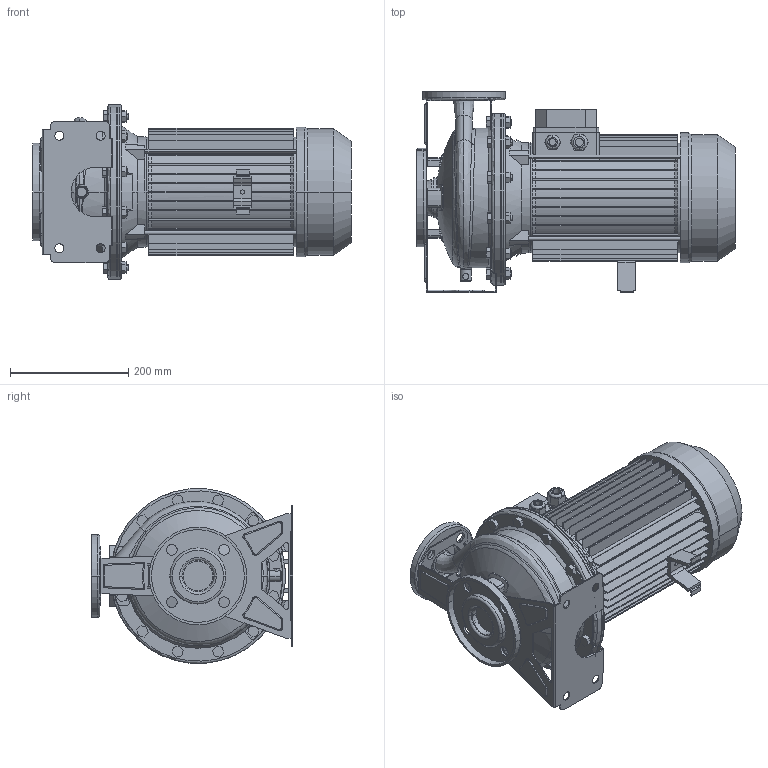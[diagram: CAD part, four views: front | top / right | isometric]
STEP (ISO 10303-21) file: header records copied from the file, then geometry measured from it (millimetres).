
FILE_DESCRIPTION((''),'2;1');
FILE_NAME('3M_32-200_7_5_IE2_IGES','2014-04-16T',('ute03'),('"Ebara Pumps Europe +39.444.706811"'),'PRO/ENGINEER BY PARAMETRIC TECHNOLOGY CORPORATION, 2013050','PRO/ENGINEER BY PARAMETRIC TECHNOLOGY CORPORATION, 2013050','');
FILE_SCHEMA(('AUTOMOTIVE_DESIGN { 1 0 10303 214 1 1 1 1 }'));
Length unit declared in the file: millimetre
Products named in the file (1): 3M_32-200_7_5_IE2_IGES
Bounding box: 539 x 340 x 295.59 mm (x, y, z)
Surface area: 1270545.9 mm2 (no closed solid volume)
Topology: 0 solids, 9 shells, 1085 faces, 2780 edges, 1777 vertices
Faces by surface type: plane 599, cylinder 295, cone 94, torus 62, bspline 29, sphere 6
Entity records: 49894 total; most frequent: CARTESIAN_POINT 8700, DIRECTION 5582, ORIENTED_EDGE 5560, PRESENTATION_STYLE_ASSIGNMENT 3668, STYLED_ITEM 3241, CURVE_STYLE 2780, EDGE_CURVE 2780, AXIS2_PLACEMENT_3D 2011
